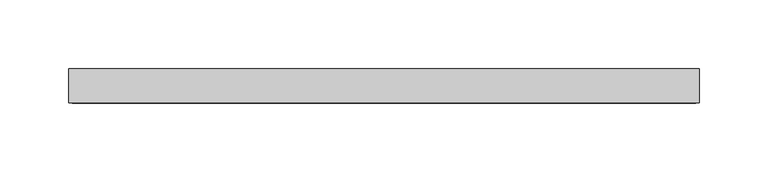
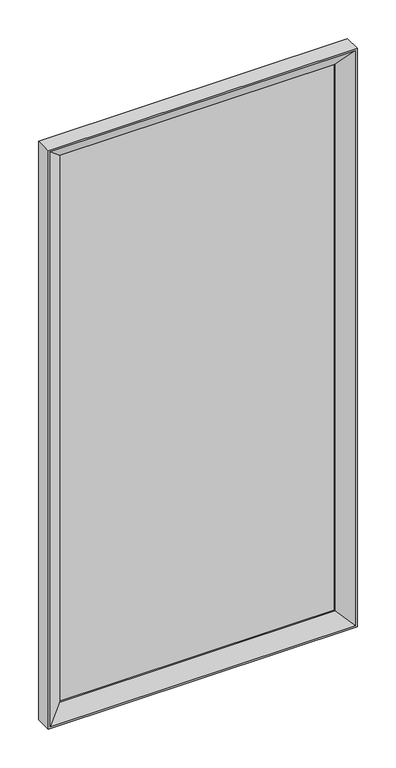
"""IFC4 building model written with IfcOpenShell, lengths in millimetres: proxy geometry, Mirror_Metlam_Framed : 460w x 25d x 910h (ML771_2)."""

import ifcopenshell
import ifcopenshell.guid

model = None  # the IFC model being written
_history = None  # IfcOwnerHistory: only IFC2X3 demands one
_inside = {}  # id of a spatial element -> (the spatial element, [elements in it])
_under = {}  # id of a project, library or spatial element -> (it, [spatial elements below it])
_declared = {}  # id of a project -> (the project, [libraries it declares])
_typed = {}  # id of a type object -> (the type object, [elements of that type])
_made_of = {}  # id of a material, layer set ... -> (it, [elements and type objects made of it])


def new_model(schema):
    """Start an empty IFC model of exactly this schema.

    Asked for "IFC4X3", IfcOpenShell would pick the latest addendum, in which some entities
    have other attributes; the version numbers below select the first issue.
    IFC2X3 requires an IfcOwnerHistory on every rooted entity: one is made here for all.
    """
    global model, _history
    if schema == "IFC4X3":
        model = ifcopenshell.file(schema_version=(4, 3, 0, 0))
    else:
        model = ifcopenshell.file(schema=schema)
    _inside.clear()
    _under.clear()
    _declared.clear()
    _typed.clear()
    _made_of.clear()
    _history = None
    if model.schema == "IFC2X3":
        org = make("IfcOrganization", Name="unknown")
        user = make(
            "IfcPersonAndOrganization",
            ThePerson=make("IfcPerson", FamilyName="unknown"),
            TheOrganization=org,
        )
        app = make(
            "IfcApplication",
            ApplicationDeveloper=org,
            Version="unknown",
            ApplicationFullName="unknown",
            ApplicationIdentifier="unknown",
        )
        _history = make(
            "IfcOwnerHistory",
            OwningUser=user,
            OwningApplication=app,
            ChangeAction="ADDED",
            CreationDate=0,
        )
    return model


def make(cls, **values):
    """One entity of the class cls with the attributes given. An attribute that is None is left unset."""
    return model.create_entity(
        cls, **{name: value for name, value in values.items() if value is not None}
    )


def rooted(cls, **values):
    """An entity with a GlobalId (a new one), such as an element, a storey or a relation."""
    return make(cls, GlobalId=ifcopenshell.guid.new(), OwnerHistory=_history, **values)


def si_unit(unit_type, name, prefix=None):
    """IfcSIUnit, for example si_unit("LENGTHUNIT", "METRE", prefix="MILLI")."""
    return make("IfcSIUnit", UnitType=unit_type, Prefix=prefix, Name=name)


def assignment(units):
    """IfcUnitAssignment: the units of a project."""
    return None if units is None else make("IfcUnitAssignment", Units=units)


def point(xyz):
    """IfcCartesianPoint."""
    return None if xyz is None else make("IfcCartesianPoint", Coordinates=xyz)


def direction(xyz):
    """IfcDirection."""
    return None if xyz is None else make("IfcDirection", DirectionRatios=xyz)


def frame(location, z_axis=None, x_axis=None):
    """IfcAxis2Placement3D, a coordinate frame: its origin and axes. An axis left out is left unset."""
    return make(
        "IfcAxis2Placement3D",
        Location=point(location),
        Axis=direction(z_axis),
        RefDirection=direction(x_axis),
    )


def origin():
    """The frame at (0, 0, 0) with its axes left unset."""
    return frame((0.0, 0.0, 0.0))


def place(relative_to, where):
    """IfcLocalPlacement: puts the frame where relative to a parent placement (None: the world)."""
    return make(
        "IfcLocalPlacement", PlacementRelTo=relative_to, RelativePlacement=where
    )


def context(
    kind, dimensions, precision=None, world=None, true_north=None, identifier=None
):
    """IfcGeometricRepresentationContext, for example the 3D "Model" context."""
    return make(
        "IfcGeometricRepresentationContext",
        ContextIdentifier=identifier,
        ContextType=kind,
        CoordinateSpaceDimension=dimensions,
        Precision=precision,
        WorldCoordinateSystem=world,
        TrueNorth=true_north,
    )


def project(units=None, contexts=None):
    """IfcProject with its units and contexts."""
    return rooted(
        "IfcProject",
        Name="project",
        RepresentationContexts=contexts,
        UnitsInContext=assignment(units),
    )


def spatial(cls, under=None, at=None, **own):
    """A site, building, storey or space (cls), placed at a placement, below another one or the project."""
    s = rooted(cls, ObjectPlacement=at, **own)
    if under is not None:
        _under.setdefault(under.id(), (under, []))[1].append(s)
    return s


def polyline(points):
    """IfcPolyline through the points."""
    return make("IfcPolyline", Points=[point(p) for p in points])


def outline(outer, holes=None, kind="AREA"):
    """IfcArbitraryClosedProfileDef: a profile drawn as a closed curve; with holes, ...WithVoids."""
    if holes is None:
        return make("IfcArbitraryClosedProfileDef", ProfileType=kind, OuterCurve=outer)
    return make(
        "IfcArbitraryProfileDefWithVoids",
        ProfileType=kind,
        OuterCurve=outer,
        InnerCurves=holes,
    )


def extrude(swept, where, along, depth):
    """IfcExtrudedAreaSolid: the profile swept, set in the frame where, extruded along a direction by depth."""
    return make(
        "IfcExtrudedAreaSolid",
        SweptArea=swept,
        Position=where,
        ExtrudedDirection=direction(along),
        Depth=depth,
    )


def faces_of(points, faces, orient=None, outer=None):
    """IfcFace entities. A face is a list of loops; a loop is a list of indices into points, from 0.

    orient and outer hold one flag for each loop. By default every Orientation is true, the
    first loop of a face is its IfcFaceOuterBound and the others are IfcFaceBound.
    """
    made = []
    for i, loops in enumerate(faces):
        bounds = []
        for j, loop in enumerate(loops):
            is_outer = j == 0 if outer is None else outer[i][j]
            bounds.append(
                make(
                    "IfcFaceOuterBound" if is_outer else "IfcFaceBound",
                    Bound=make("IfcPolyLoop", Polygon=[points[k] for k in loop]),
                    Orientation=True if orient is None else orient[i][j],
                )
            )
        made.append(make("IfcFace", Bounds=bounds))
    return made


def faceted_brep(points, faces, orient=None, outer=None, voids=None):
    """IfcFacetedBrep: a solid bounded by flat faces; with voids (closed shells), ...WithVoids."""
    shared = [point(p) for p in points]
    hull = make("IfcClosedShell", CfsFaces=faces_of(shared, faces, orient, outer))
    if voids is None:
        return make("IfcFacetedBrep", Outer=hull)
    return make(
        "IfcFacetedBrepWithVoids",
        Outer=hull,
        Voids=[
            make(cls, CfsFaces=faces_of(shared, fs, o, b)) for cls, fs, o, b in voids
        ],
    )


def shape(context_of_items, identifier, shape_type, items):
    """IfcShapeRepresentation: the items that make up one representation, for example the "Body"."""
    return make(
        "IfcShapeRepresentation",
        ContextOfItems=context_of_items,
        RepresentationIdentifier=identifier,
        RepresentationType=shape_type,
        Items=items,
    )


def source(mapping_origin, context_of_items, identifier, shape_type, items):
    """IfcRepresentationMap: a shape defined once, which mapped items show again and again."""
    return make(
        "IfcRepresentationMap",
        MappingOrigin=mapping_origin,
        MappedRepresentation=shape(context_of_items, identifier, shape_type, items),
    )


def transform(
    local_origin,
    x_axis=None,
    y_axis=None,
    z_axis=None,
    scale=None,
    scale2=None,
    scale3=None,
    uniform=True,
):
    """IfcCartesianTransformationOperator3D, or its non-uniform kind. x_axis, y_axis, z_axis: its Axis1, 2, 3."""
    if uniform:
        return make(
            "IfcCartesianTransformationOperator3D",
            Axis1=direction(x_axis),
            Axis2=direction(y_axis),
            LocalOrigin=point(local_origin),
            Scale=scale,
            Axis3=direction(z_axis),
        )
    return make(
        "IfcCartesianTransformationOperator3DnonUniform",
        Axis1=direction(x_axis),
        Axis2=direction(y_axis),
        LocalOrigin=point(local_origin),
        Scale=scale,
        Axis3=direction(z_axis),
        Scale2=scale2,
        Scale3=scale3,
    )


def mapped(mapping_source, mapping_target):
    """IfcMappedItem: shows the shape of a source again, moved by a transform."""
    return make(
        "IfcMappedItem", MappingSource=mapping_source, MappingTarget=mapping_target
    )


def made_of(thing, what):
    """Note that an element or type object is made of a material, layer set ...; save() writes the relation."""
    if what is not None:
        _made_of.setdefault(what.id(), (what, []))[1].append(thing)
    return thing


def element(
    cls,
    number,
    at=None,
    inside=None,
    cuts=None,
    type_object=None,
    material=None,
    context=None,
    identifier="Body",
    shape_type=None,
    held_by="IfcProductDefinitionShape",
    body=None,
    shapes=None,
    **own,
):
    """One element of the class cls, such as IfcWall. Its Tag is "e" and its number.

    at: its placement. inside: the storey or other place that contains it. cuts: it is an
    opening in that element (IfcRelVoidsElement). A single representation is given by context,
    identifier, shape_type and body (its items); several are given by shapes. held_by: the class
    of the entity that holds the representations. save() writes the other relations.
    """
    e = rooted(cls, Tag="e%d" % number, ObjectPlacement=at, **own)
    if body is not None:
        shapes = [shape(context, identifier, shape_type, body)]
    if shapes is not None:
        e.Representation = make(held_by, Representations=shapes)
    if inside is not None:
        _inside.setdefault(inside.id(), (inside, []))[1].append(e)
    if cuts is not None:
        rooted(
            "IfcRelVoidsElement", RelatingBuildingElement=cuts, RelatedOpeningElement=e
        )
    if type_object is not None:
        _typed.setdefault(type_object.id(), (type_object, []))[1].append(e)
    return made_of(e, material)


def aggregate(whole, parts):
    """IfcRelAggregates: a whole, such as a stair, and the parts it consists of."""
    return rooted("IfcRelAggregates", RelatingObject=whole, RelatedObjects=parts)


def save(model, path):
    """Write the relations noted so far, then the file.

    IfcRelAggregates (storeys below a building ...), IfcRelContainedInSpatialStructure (elements
    in a storey), IfcRelDefinesByType, IfcRelAssociatesMaterial and IfcRelDeclares: one each for
    every whole, place, type object, material and project.
    """
    for whole, parts in _under.values():
        aggregate(whole, parts)
    for where, things in _inside.values():
        rooted(
            "IfcRelContainedInSpatialStructure",
            RelatedElements=things,
            RelatingStructure=where,
        )
    for kind, things in _typed.values():
        rooted("IfcRelDefinesByType", RelatedObjects=things, RelatingType=kind)
    for what, things in _made_of.values():
        rooted("IfcRelAssociatesMaterial", RelatedObjects=things, RelatingMaterial=what)
    for by, libraries in _declared.values():
        rooted("IfcRelDeclares", RelatingContext=by, RelatedDefinitions=libraries)
    model.write(path)


def specialty_equipment_2b32edbf(model_context):
    return source(origin(), model_context, "Body", "SolidModel", [
        extrude(outline(polyline([(228.0, -2.0), (228.0, -8.0), (-228.0, -8.0), (-228.0, -2.0), (228.0, -2.0)])), frame((0.0, 0.0, 902.0), z_axis=(0.0, 0.0, 1.0), x_axis=(1.0, 0.0, 0.0)), (0.0, 0.0, 1.0), 906.0),
        faceted_brep([(-230.0, -25.0, 1810.0), (-230.0, 0.0, 1810.0), (-230.0, 0.0, 900.0), (-230.0, -25.0, 900.0), (-205.0, 0.0, 1785.0), (-205.0, -2.0, 1785.0), (-205.0, -2.0, 925.0), (-205.0, 0.0, 925.0), (230.0, 0.0, 900.0), (230.0, -25.0, 900.0), (205.0, -2.0, 925.0), (205.0, 0.0, 925.0), (230.0, 0.0, 1810.0), (230.0, -25.0, 1810.0), (205.0, -2.0, 1785.0), (205.0, 0.0, 1785.0), (-227.4054586, -25.0, 1807.4054586), (227.4054586, -25.0, 1807.4054586), (227.4054586, -25.0, 902.5945414), (-227.4054586, -25.0, 902.5945414), (-228.0, -2.0, 1808.0), (-228.0, -23.0, 1808.0), (-228.0, -23.0, 902.0), (-228.0, -2.0, 902.0), (-205.0, -8.0, 1785.0), (-205.0, -8.0, 925.0), (-205.0, -10.3877444, 1785.0), (-205.0, -10.3877444, 925.0), (228.0, -23.0, 902.0), (228.0, -2.0, 902.0), (205.0, -8.0, 925.0), (205.0, -10.3877444, 925.0), (228.0, -23.0, 1808.0), (228.0, -2.0, 1808.0), (205.0, -8.0, 1785.0), (205.0, -10.3877444, 1785.0)], [[[0, 1, 2, 3]], [[4, 5, 6, 7]], [[3, 2, 8, 9]], [[7, 6, 10, 11]], [[9, 8, 12, 13]], [[11, 10, 14, 15]], [[13, 12, 1, 0]], [[1, 12, 8, 2], [7, 11, 15, 4]], [[15, 14, 5, 4]], [[3, 9, 13, 0], [16, 17, 18, 19]], [[20, 21, 22, 23]], [[21, 24, 25, 22]], [[24, 26, 27, 25]], [[26, 16, 19, 27]], [[23, 22, 28, 29]], [[22, 25, 30, 28]], [[25, 27, 31, 30]], [[27, 19, 18, 31]], [[29, 28, 32, 33]], [[28, 30, 34, 32]], [[30, 31, 35, 34]], [[31, 18, 17, 35]], [[23, 29, 33, 20], [5, 14, 10, 6]], [[33, 32, 21, 20]], [[32, 34, 24, 21]], [[34, 35, 26, 24]], [[35, 17, 16, 26]]]),
    ])


if __name__ == "__main__":
    model = new_model("IFC4")
    model_context = context("Model", 3, world=origin())
    ifc_project = project(units=[si_unit("LENGTHUNIT", "METRE", prefix="MILLI")], contexts=[model_context])
    site = spatial("IfcSite", under=ifc_project)
    building = spatial("IfcBuilding", under=site)
    placement = place(None, origin())
    specialty_equipment_shape = specialty_equipment_2b32edbf(model_context)
    element("IfcBuildingElementProxy", 1, Name="Mirror_Metlam_Framed : 460w x 25d x 910h (ML771_2)", ObjectType="Mirror_Metlam_Framed : 460w x 25d x 910h (ML771_2)", at=placement, inside=building, context=model_context, shape_type="MappedRepresentation", body=[
        mapped(specialty_equipment_shape, transform((0.0, 0.0, 0.0), x_axis=(1.0, 0.0, 0.0), y_axis=(0.0, 1.0, 0.0), z_axis=(0.0, 0.0, 1.0))),
    ])
    save(model, "model.ifc")
